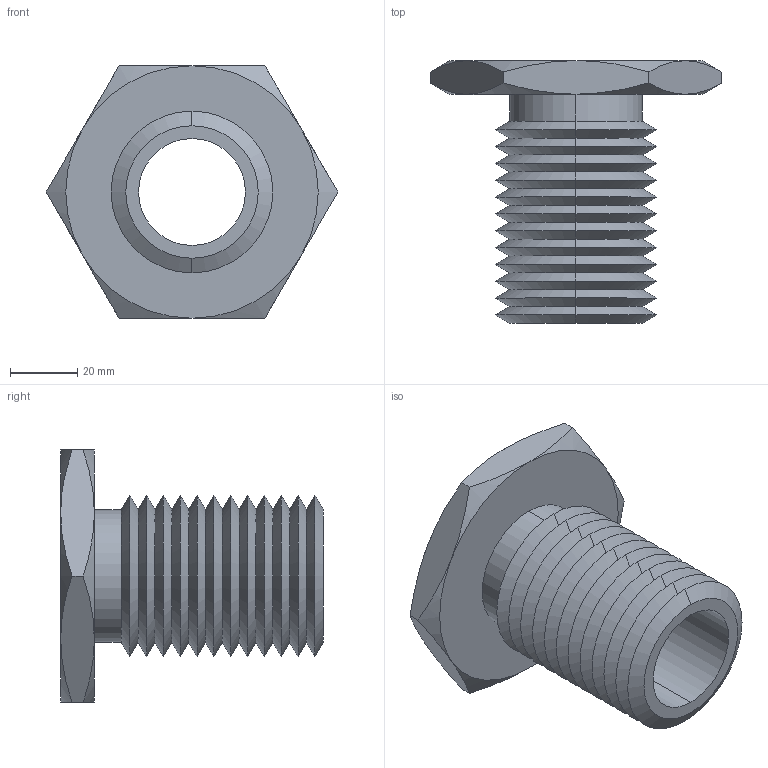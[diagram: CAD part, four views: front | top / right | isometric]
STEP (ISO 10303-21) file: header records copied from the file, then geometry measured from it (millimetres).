
FILE_DESCRIPTION (( 'STEP AP203' ), '1' );
FILE_NAME ('63302.W0048_1,25 UNC-7.step', '2013-12-08T11:20:17', ( 'User' ), ( '' ), 'SwSTEP 2.0', 'SolidWorks 2009', '' );
FILE_SCHEMA (( 'CONFIG_CONTROL_DESIGN' ));
Length unit declared in the file: millimetre
Products named in the file (1): 63302.W0048_1,25 UNC-7
Bounding box: 86.6 x 78 x 75 mm (x, y, z)
Volume: 85222.3 mm3; surface area: 35337.9 mm2
Topology: 1 solids, 1 shells, 75 faces, 154 edges, 82 vertices
Faces by surface type: cone 62, plane 9, cylinder 4
Entity records: 2139 total; most frequent: CARTESIAN_POINT 496, DIRECTION 352, ORIENTED_EDGE 308, EDGE_CURVE 154, AXIS2_PLACEMENT_3D 146, VERTEX_POINT 82, EDGE_LOOP 78, ADVANCED_FACE 75
